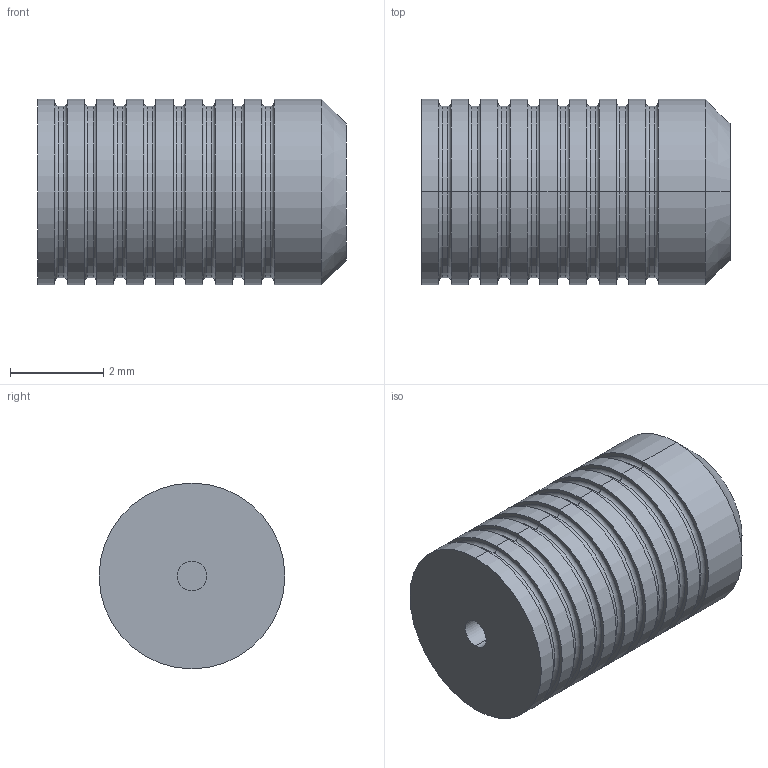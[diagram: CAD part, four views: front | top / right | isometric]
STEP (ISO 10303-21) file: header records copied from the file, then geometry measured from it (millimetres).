
FILE_DESCRIPTION (( 'STEP AP214' ), '1' );
FILE_NAME ('PLGM0401 _ _ 0A.STEP', '2020-02-19T18:38:47', ( 'tlc' ), ( 'Microsoft' ), 'SwSTEP 2.0', 'SolidWorks 2019', '' );
FILE_SCHEMA (( 'AUTOMOTIVE_DESIGN' ));
Length unit declared in the file: inch
Products named in the file (1): PLGM0401 _ _ 0A
Bounding box: 6.63 x 3.99 x 3.99 mm (x, y, z)
Volume: 75.8 mm3; surface area: 136 mm2
Topology: 1 solids, 1 shells, 89 faces, 176 edges, 106 vertices
Faces by surface type: cylinder 36, torus 32, plane 19, cone 2
Entity records: 2376 total; most frequent: DIRECTION 494, CARTESIAN_POINT 372, ORIENTED_EDGE 352, AXIS2_PLACEMENT_3D 228, EDGE_CURVE 176, CIRCLE 138, EDGE_LOOP 106, VERTEX_POINT 106
